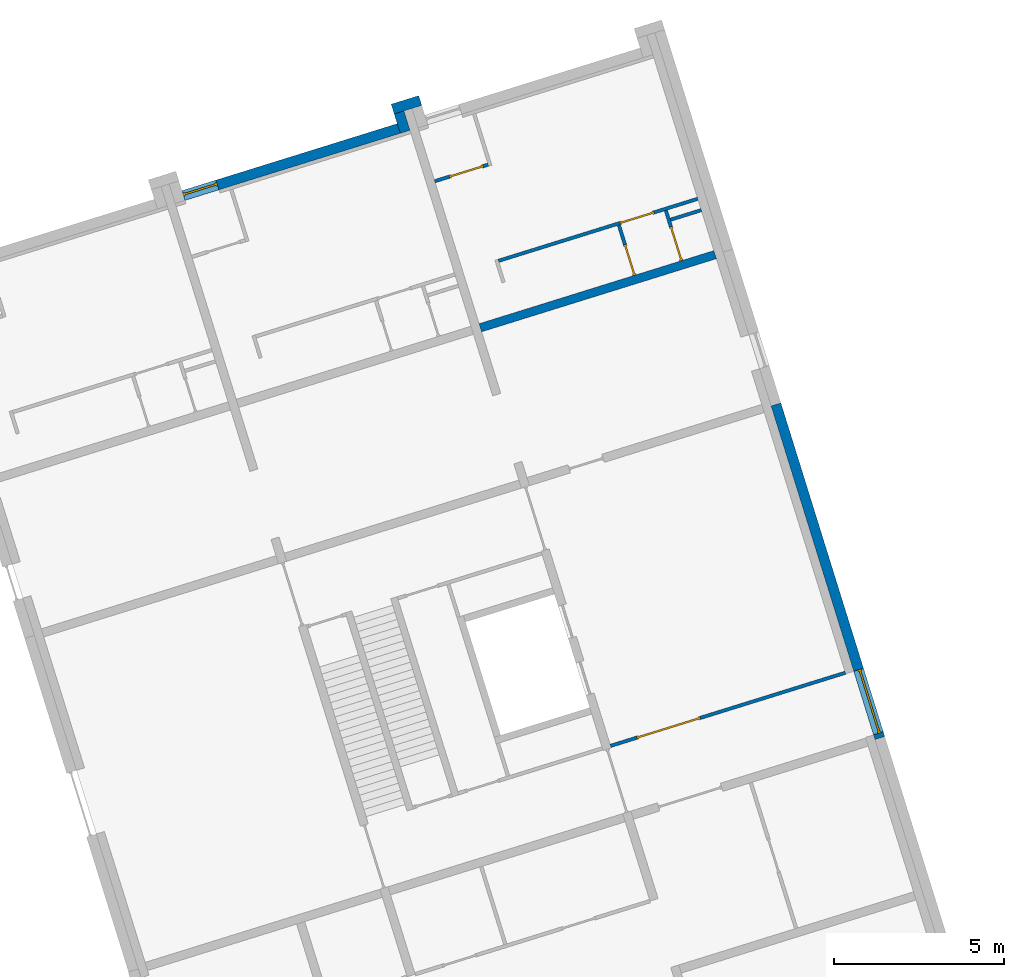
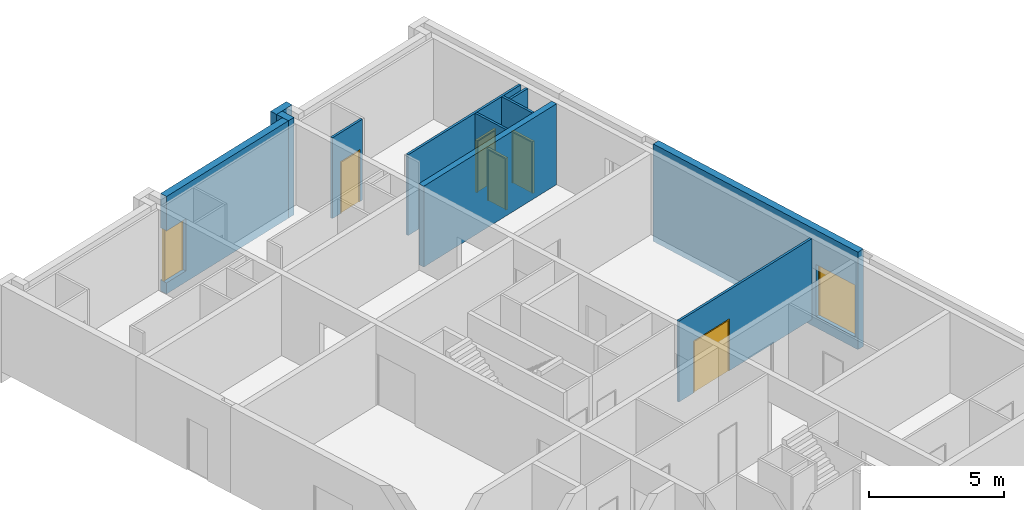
# One storey, part 5 of 10: 11 walls, 7 doors, 9 openings.
"""IFC4 building model written with IfcOpenShell, lengths in metres."""

from ifc_helpers import new_model, entity, si_unit, converted_unit, direction, frame, origin, place, context, subcontext, project, spatial, indexed_curve, outline, extrude, polygons, source, transform, mapped, material, constituent, constituent_set, type_object, type_shapes, element, fill, save


model = new_model("IFC4")

# Units and contexts
model_context = context("Model", 3, precision=1e-05, world=origin(), true_north=direction((6.12323399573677e-17, 1.0)))
body_context = subcontext(model_context, "Body", "Model", "MODEL_VIEW")
ifc_project = project(units=[si_unit("LENGTHUNIT", "METRE"), si_unit("AREAUNIT", "SQUARE_METRE"), converted_unit("PLANEANGLEUNIT", "DEGREE", entity("IfcPlaneAngleMeasure", 0.0174532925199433), si_unit("PLANEANGLEUNIT", "RADIAN"), dimensions=[0, 0, 0, 0, 0, 0, 0]), si_unit("VOLUMEUNIT", "CUBIC_METRE")], contexts=[model_context])

# Site, building, storey
site_placement = place(None, frame((13.1347999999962, 11.9886000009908, 0.0), z_axis=(0.0, 0.0, 1.0), x_axis=(0.954770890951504, 0.297342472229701, 0.0)))
site = spatial("IfcSite", under=ifc_project, at=site_placement, Name="Schiehaven", CompositionType="ELEMENT")
building_placement = place(site_placement, origin())
building = spatial("IfcBuilding", under=site, at=building_placement, Name="VORM huis", CompositionType="ELEMENT")
storey_placement = place(building_placement, origin())
storey = spatial("IfcBuildingStorey", under=building, at=storey_placement, Name="00 begane grond", CompositionType="ELEMENT", Elevation=0.0)

# Wall, openings, door
ifc_material_1 = material(Name="ntb_ntb_ntb", Category="Miscellaneous")
wall_type_1 = type_object("IfcWallType", Name="Basic Wall: 300mm_gen", PredefinedType="STANDARD")
wall_1_placement = place(storey_placement, frame((80.2750000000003, 11.9, -0.5), z_axis=(0.0, 0.0, 1.0), x_axis=(0.0, 1.0, 0.0)))
wall_1 = element("IfcWall", 1, at=wall_1_placement, inside=storey, type_object=wall_type_1, material=ifc_material_1, Name="Gevelwand", ObjectType="Wand", PredefinedType="NOTDEFINED", context=body_context, shape_type="Tessellation", body=[
    polygons([(0.0, -0.150000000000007, 0.0), (10.3, -0.150000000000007, 0.0), (10.3, -0.150000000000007, 4.4), (0.0, -0.150000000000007, 4.4), (2.1075, -0.150000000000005, 2.84999999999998), (2.1075, -0.150000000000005, 0.5), (0.142499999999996, -0.15000000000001, 0.5), (0.142499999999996, -0.15000000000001, 2.84999999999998), (0.0, 0.149999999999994, 0.0), (0.0, 0.149999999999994, 4.4), (10.3, 0.149999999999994, 4.4), (10.3, 0.149999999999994, 0.0), (2.1075, 0.149999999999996, 2.84999999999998), (0.142499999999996, 0.149999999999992, 2.84999999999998), (0.142499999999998, 0.149999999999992, 0.5), (2.1075, 0.149999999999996, 0.5)], [[[1, 2, 3, 4], [5, 6, 7, 8]], [[9, 10, 11, 12], [13, 14, 15, 16]], [[2, 1, 9, 12]], [[3, 2, 12, 11]], [[4, 3, 11, 10]], [[1, 4, 10, 9]], [[5, 8, 14, 13]], [[8, 7, 15, 14]], [[7, 6, 16, 15]], [[6, 5, 13, 16]]], closed=True),
])
opening_1_placement = place(wall_1_placement, frame((2.1075, 0.150000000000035, 0.5)))
opening_1 = element("IfcOpeningElement", 2, at=opening_1_placement, cuts=wall_1, Name="Vluchtdeur", PredefinedType="OPENING", context=body_context, shape_type="SweptSolid", body=[
    extrude(outline(indexed_curve([(2.34999999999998, 0.0), (2.34999999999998, 1.965), (0.0, 1.965), (0.0, 0.0), (2.34999999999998, 0.0)], self_intersect=False)), frame((0.0, 0.0, 0.0), z_axis=(0.0, -1.0, 0.0), x_axis=(0.0, 0.0, 1.0)), (0.0, 0.0, 1.0), 0.3),
])
opening_2_placement = place(wall_1_placement, frame((-11.9, 80.2750000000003, 0.5), z_axis=(0.0, 0.0, 1.0), x_axis=(0.0, -1.0, 0.0)))
element("IfcOpeningElement", 3, at=opening_2_placement, cuts=wall_1, Name="Vluchtdeur", PredefinedType="OPENING", context=body_context, shape_type="SweptSolid", body=[
    extrude(outline(indexed_curve([(-1.17499999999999, -0.9825), (1.17499999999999, -0.982500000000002), (1.17499999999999, 0.982500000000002), (-1.17499999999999, 0.982500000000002), (-1.17499999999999, -0.9825)], self_intersect=False)), frame((81.6490000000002, 13.025, 1.17499999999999), z_axis=(-1.0, 0.0, 0.0), x_axis=(0.0, 0.0, -1.0)), (0.0, 0.0, 1.0), 3.048),
])
ifc_material_2 = material(Name="PD_a_buitenwandopeningen", Category="Miscellaneous")
ifc_constituent_1 = constituent(ifc_material_2, Name="PD_a_buitenwandopeningen", Category="Miscellaneous")
ifc_material_3 = material(Name="metaal_aluminium_ntb", Category="Miscellaneous")
ifc_constituent_2 = constituent(ifc_material_3, Name="metaal_aluminium_ntb", Category="Miscellaneous")
ifc_constituent_set_1 = constituent_set(constituents=[ifc_constituent_1, ifc_constituent_2])
ifc_constituent_3 = constituent(ifc_material_2, Name="PD_a_buitenwandopeningen", Category="Miscellaneous")
ifc_constituent_4 = constituent(ifc_material_3, Name="Panel", Category="Miscellaneous")
ifc_constituent_set_2 = constituent_set(constituents=[ifc_constituent_3, ifc_constituent_4])
door_type_1 = type_object("IfcDoorType", Name="31_DO_buitendeur dubbel:buitendeur zelfsluitend 30min", OperationType="NOTDEFINED", PredefinedType="DOOR", material=ifc_constituent_set_2)
shared_shape_1 = source(origin(), body_context, "Body", "SweptSolid", [
    extrude(outline(indexed_curve([(0.932499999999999, -1.16249999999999), (0.982500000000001, -1.16249999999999), (0.982500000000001, 1.18749999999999), (-0.982500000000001, 1.18749999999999), (-0.982500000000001, -1.16249999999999), (-0.932499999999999, -1.16249999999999), (-0.9325, 1.13749999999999), (0.932499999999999, 1.13749999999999), (0.932499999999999, -1.16249999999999)], self_intersect=False)), frame((0.982500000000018, 0.230000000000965, 1.16249999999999), z_axis=(0.0, -1.0, 0.0), x_axis=(1.0, 0.0, 0.0)), (0.0, 0.0, 1.0), 0.1),
    extrude(outline(indexed_curve([(-0.466249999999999, -0.025), (0.466249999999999, -0.025), (0.466249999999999, 0.025), (-0.466249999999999, 0.025), (-0.466249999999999, -0.025)], self_intersect=False)), frame((0.516250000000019, 0.180000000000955, 0.0)), (0.0, 0.0, 1.0), 2.29999999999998),
    extrude(outline(indexed_curve([(-0.46625, -0.025), (0.46625, -0.025), (0.46625, 0.025), (-0.46625, 0.025), (-0.46625, -0.025)], self_intersect=False)), frame((1.44875000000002, 0.180000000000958, 0.0)), (0.0, 0.0, 1.0), 2.29999999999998),
])
type_shapes(door_type_1, [shared_shape_1])
door_1_placement = place(opening_1_placement, frame((0.0, 0.0, 0.0), z_axis=(0.0, 0.0, 1.0), x_axis=(-1.0, 0.0, 0.0)))
door_1 = element("IfcDoor", 4, at=door_1_placement, inside=storey, type_object=door_type_1, material=ifc_constituent_set_1, Name="Vluchtdeur", ObjectType="Deur", OperationType="NOTDEFINED", OverallHeight=2.34999999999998, OverallWidth=1.965, PredefinedType="DOOR", context=body_context, shape_type="MappedRepresentation", body=[
    mapped(shared_shape_1, transform((0.0, 0.0, 0.0), scale=1.0)),
])
fill(opening_1, door_1)

# Wall
wall_2_placement = place(storey_placement, frame((72.2250000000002, 33.7249999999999, -0.5), z_axis=(0.0, 0.0, 1.0), x_axis=(0.0, -1.0, 0.0)))
element("IfcWall", 5, at=wall_2_placement, inside=storey, type_object=wall_type_1, material=ifc_material_1, Name="Gevelwand", ObjectType="Wand", PredefinedType="NOTDEFINED", context=body_context, shape_type="SweptSolid", body=[
    extrude(outline(indexed_curve([(0.600000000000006, 0.150000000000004), (-9.66298299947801e-16, 0.150000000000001), (9.66298299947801e-16, -0.150000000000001), (0.600000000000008, -0.149999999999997), (0.600000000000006, 0.150000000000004)], self_intersect=False)), origin(), (0.0, 0.0, 1.0), 4.4),
])

# Wall, opening, door
wall_3_placement = place(storey_placement, frame((72.0750000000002, 33.2749999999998, -0.5), z_axis=(0.0, 0.0, 1.0), x_axis=(-1.0, 0.0, 0.0)))
wall_3 = element("IfcWall", 6, at=wall_3_placement, inside=storey, type_object=wall_type_1, material=ifc_material_1, Name="Gevelwand", ObjectType="Wand", PredefinedType="NOTDEFINED", context=body_context, shape_type="Tessellation", body=[
    polygons([(5.27465413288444e-15, -0.150000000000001, 0.0), (6.64999999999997, -0.150000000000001, 0.0), (6.64999999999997, -0.150000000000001, 0.5), (5.60000000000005, -0.150000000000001, 0.5), (5.60000000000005, -0.150000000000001, 2.84999999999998), (6.64999999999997, -0.150000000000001, 2.84999999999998), (6.64999999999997, -0.150000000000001, 4.4), (5.27465413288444e-15, -0.150000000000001, 4.4), (6.64999999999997, 0.150000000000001, 0.0), (4.29428107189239e-15, 0.150000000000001, 0.0), (4.29428107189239e-15, 0.150000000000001, 4.4), (6.64999999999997, 0.150000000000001, 4.4), (6.64999999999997, 0.150000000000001, 2.84999999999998), (5.60000000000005, 0.150000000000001, 2.84999999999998), (5.60000000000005, 0.150000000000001, 0.5), (6.64999999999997, 0.150000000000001, 0.5)], [[[1, 2, 3, 4, 5, 6, 7, 8]], [[9, 10, 11, 12, 13, 14, 15, 16]], [[2, 1, 10, 9]], [[8, 7, 12, 11]], [[1, 8, 11, 10]], [[2, 9, 16, 3]], [[15, 4, 3, 16]], [[4, 15, 14, 5]], [[5, 14, 13, 6]], [[12, 7, 6, 13]]], closed=True),
])
opening_3_placement = place(wall_3_placement, frame((6.65000000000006, 0.149999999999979, 0.5)))
opening_3 = element("IfcOpeningElement", 7, at=opening_3_placement, cuts=wall_3, Name="Woningtoegangsdeur", PredefinedType="OPENING", context=body_context, shape_type="SweptSolid", body=[
    extrude(outline(indexed_curve([(2.34999999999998, -5.52923834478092e-32), (2.34999999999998, 1.05), (0.0, 1.05), (0.0, -5.52923834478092e-32), (2.34999999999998, -5.52923834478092e-32)], self_intersect=False)), frame((0.0, 0.0, 0.0), z_axis=(0.0, -1.0, 0.0), x_axis=(0.0, 0.0, 1.0)), (0.0, 0.0, 1.0), 0.3),
])
ifc_constituent_5 = constituent(ifc_material_2, Name="PD_a_buitenwandopeningen", Category="Miscellaneous")
ifc_constituent_6 = constituent(ifc_material_3, Name="metaal_aluminium_ntb", Category="Miscellaneous")
ifc_constituent_set_3 = constituent_set(constituents=[ifc_constituent_5, ifc_constituent_6])
ifc_constituent_7 = constituent(ifc_material_2, Name="PD_a_buitenwandopeningen", Category="Miscellaneous")
ifc_constituent_8 = constituent(ifc_material_3, Name="Panel", Category="Miscellaneous")
ifc_constituent_set_4 = constituent_set(constituents=[ifc_constituent_7, ifc_constituent_8])
door_type_2 = type_object("IfcDoorType", Name="31_DO_buitendeur enkel:woningtoegangsdeur", OperationType="REVOLVING", PredefinedType="DOOR", material=ifc_constituent_set_4)
shared_shape_2 = source(origin(), body_context, "Body", "SweptSolid", [
    extrude(outline(indexed_curve([(0.475, -1.16249999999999), (0.525000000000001, -1.16249999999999), (0.525000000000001, 1.18749999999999), (-0.525000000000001, 1.18749999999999), (-0.525000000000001, -1.16249999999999), (-0.475, -1.16249999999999), (-0.475, 1.13749999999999), (0.475, 1.13749999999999), (0.475, -1.16249999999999)], self_intersect=False)), frame((0.525000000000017, 0.230000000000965, 1.16249999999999), z_axis=(0.0, -1.0, 0.0), x_axis=(1.0, 0.0, 0.0)), (0.0, 0.0, 1.0), 0.1),
    extrude(outline(indexed_curve([(-0.475, -0.025), (0.475, -0.025), (0.475, 0.025), (-0.475, 0.025), (-0.475, -0.025)], self_intersect=False)), frame((0.525000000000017, 0.180000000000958, 0.0)), (0.0, 0.0, 1.0), 2.29999999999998),
])
type_shapes(door_type_2, [shared_shape_2])
door_2_placement = place(opening_3_placement, frame((0.0, 0.0, 0.0), z_axis=(0.0, 0.0, 1.0), x_axis=(-1.0, 0.0, 0.0)))
door_2 = element("IfcDoor", 8, at=door_2_placement, inside=storey, type_object=door_type_2, material=ifc_constituent_set_3, Name="Woningtoegangsdeur", ObjectType="Deur", OperationType="REVOLVING", OverallHeight=2.34999999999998, OverallWidth=1.05, PredefinedType="DOOR", context=body_context, shape_type="MappedRepresentation", body=[
    mapped(shared_shape_2, transform((0.0, 0.0, 0.0), scale=1.0)),
])
fill(opening_3, door_2)

# Walls
wall_4_placement = place(storey_placement, frame((72.9250000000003, 33.8749999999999, -0.5), z_axis=(0.0, 0.0, 1.0), x_axis=(-1.0, 0.0, 0.0)))
element("IfcWall", 9, at=wall_4_placement, inside=storey, type_object=wall_type_1, material=ifc_material_1, Name="Gevelwand", ObjectType="Wand", PredefinedType="NOTDEFINED", context=body_context, shape_type="SweptSolid", body=[
    extrude(outline(indexed_curve([(0.850000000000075, 0.150000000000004), (-6.58211410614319e-16, 0.150000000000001), (6.58211410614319e-16, -0.150000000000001), (0.850000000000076, -0.149999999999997), (0.850000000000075, 0.150000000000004)], self_intersect=False)), origin(), (0.0, 0.0, 1.0), 4.4),
])
wall_type_2 = type_object("IfcWallType", Name="Basic Wall:22_WA_afbouw_binnenwand 250mm_gen", PredefinedType="STANDARD")
wall_5_placement = place(storey_placement, frame((79.875, 26.95, 0.0), z_axis=(0.0, 0.0, 1.0), x_axis=(-1.0, 0.0, 0.0)))
element("IfcWall", 10, at=wall_5_placement, inside=storey, type_object=wall_type_2, material=ifc_material_1, Name="Binnenwand", ObjectType="Wand", PredefinedType="NOTDEFINED", context=body_context, shape_type="SweptSolid", body=[
    extrude(outline(indexed_curve([(7.24999999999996, 0.125000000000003), (2.22995564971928e-15, 0.125000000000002), (-2.22995564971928e-15, -0.125000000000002), (7.24999999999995, -0.125000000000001), (7.24999999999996, 0.125000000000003)], self_intersect=False)), origin(), (0.0, 0.0, 1.0), 3.65),
])

# Wall, opening, door
wall_type_3 = type_object("IfcWallType", Name="Basic Wall:22_WA_afbouw_binnenwand 100mm_gen", PredefinedType="STANDARD")
wall_6_placement = place(storey_placement, frame((72.6250000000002, 14.04, 0.0)))
wall_6 = element("IfcWall", 11, at=wall_6_placement, inside=storey, type_object=wall_type_3, material=ifc_material_1, Name="Binnenwand", ObjectType="Wand", PredefinedType="NOTDEFINED", context=body_context, shape_type="Tessellation", body=[
    polygons([(2.76249999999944, -0.0499999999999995, 2.34999999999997), (2.76249999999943, -0.0499999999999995, 0.0), (7.24999999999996, -0.0499999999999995, 0.0), (7.24999999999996, -0.0499999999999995, 3.65), (2.59608411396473e-15, -0.0499999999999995, 3.65), (2.59608411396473e-15, -0.0499999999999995, 0.0), (0.812499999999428, -0.0499999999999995, 0.0), (0.812499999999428, -0.0499999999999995, 2.34999999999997), (7.24999999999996, 0.0499999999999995, 0.0), (2.76249999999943, 0.0499999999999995, 0.0), (2.76249999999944, 0.0499999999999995, 2.34999999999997), (0.81249999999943, 0.0500000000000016, 2.34999999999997), (0.81249999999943, 0.0500000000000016, 0.0), (4.03885492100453e-15, 0.0499999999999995, 0.0), (4.03885492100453e-15, 0.0499999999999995, 3.65), (7.24999999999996, 0.0499999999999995, 3.65)], [[[1, 2, 3, 4, 5, 6, 7, 8]], [[9, 10, 11, 12, 13, 14, 15, 16]], [[7, 6, 14, 13]], [[4, 3, 9, 16]], [[5, 4, 16, 15]], [[6, 5, 15, 14]], [[13, 12, 8, 7]], [[11, 10, 2, 1]], [[12, 11, 1, 8]], [[3, 2, 10, 9]]], closed=True),
])
opening_4_placement = place(wall_6_placement, frame((2.76249999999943, 0.0500000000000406, 0.0)))
opening_4 = element("IfcOpeningElement", 12, at=opening_4_placement, cuts=wall_6, Name="Vluchtdeur", PredefinedType="OPENING", context=body_context, shape_type="SweptSolid", body=[
    extrude(outline(indexed_curve([(2.34999999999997, 1.95), (0.0, 1.95000000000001), (0.0, 3.10024677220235e-29), (2.34999999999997, 3.10024677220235e-29), (2.34999999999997, 1.95)], self_intersect=False)), frame((0.0, 0.0, 0.0), z_axis=(0.0, -1.0, 0.0), x_axis=(0.0, 0.0, 1.0)), (0.0, 0.0, 1.0), 0.1),
])
ifc_material_4 = material(Name="PD_a_binnenwandopeningen", Category="Miscellaneous")
ifc_constituent_9 = constituent(ifc_material_4, Name="PD_a_binnenwandopeningen", Category="Miscellaneous")
ifc_constituent_10 = constituent(ifc_material_3, Name="metaal_aluminium_ntb", Category="Miscellaneous")
ifc_constituent_set_5 = constituent_set(constituents=[ifc_constituent_9, ifc_constituent_10])
ifc_constituent_11 = constituent(ifc_material_4, Name="PD_a_binnenwandopeningen", Category="Miscellaneous")
ifc_constituent_12 = constituent(ifc_material_3, Name="Panel", Category="Miscellaneous")
ifc_constituent_set_6 = constituent_set(constituents=[ifc_constituent_11, ifc_constituent_12])
door_type_3 = type_object("IfcDoorType", Name="32_DO_binnendeur dubbel:binnendeur zelfsluitend 30min", OperationType="NOTDEFINED", PredefinedType="DOOR", material=ifc_constituent_set_6)
shared_shape_3 = source(origin(), body_context, "Body", "SweptSolid", [
    extrude(outline(indexed_curve([(-1.16249999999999, -0.975), (1.18749999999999, -0.975), (1.18749999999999, 0.975), (-1.16249999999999, 0.975), (-1.16249999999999, 0.925), (1.13749999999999, 0.925), (1.13749999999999, -0.925), (-1.16249999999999, -0.925), (-1.16249999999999, -0.975)], self_intersect=False)), frame((0.975, 0.0, 1.16249999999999), z_axis=(0.0, 1.0, 0.0), x_axis=(0.0, 0.0, 1.0)), (0.0, 0.0, 1.0), 0.1),
    extrude(outline(indexed_curve([(-0.025, -0.462499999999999), (0.025, -0.462499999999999), (0.025, 0.462499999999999), (-0.025, 0.462499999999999), (-0.025, -0.462499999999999)], self_intersect=False)), frame((1.4375, 0.0499999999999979, 0.0), z_axis=(0.0, 0.0, 1.0), x_axis=(0.0, 1.0, 0.0)), (0.0, 0.0, 1.0), 2.29999999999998),
    extrude(outline(indexed_curve([(-0.0249999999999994, -0.4625), (0.0250000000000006, -0.4625), (0.0249999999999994, 0.4625), (-0.0250000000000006, 0.4625), (-0.0249999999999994, -0.4625)], self_intersect=False)), frame((0.5125, 0.050000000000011, 0.0), z_axis=(0.0, 0.0, 1.0), x_axis=(0.0, 1.0, 0.0)), (0.0, 0.0, 1.0), 2.29999999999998),
])
type_shapes(door_type_3, [shared_shape_3])
door_3_placement = place(opening_4_placement, frame((0.0, 0.0, 0.0), z_axis=(0.0, 0.0, 1.0), x_axis=(-1.0, 0.0, 0.0)))
door_3 = element("IfcDoor", 13, at=door_3_placement, inside=storey, type_object=door_type_3, material=ifc_constituent_set_5, Name="Vluchtdeur", ObjectType="Deur", OperationType="NOTDEFINED", OverallHeight=2.34999999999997, OverallWidth=1.95000000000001, PredefinedType="DOOR", context=body_context, shape_type="MappedRepresentation", body=[
    mapped(shared_shape_3, transform((0.0, 0.0, 0.0), scale=1.0)),
])
fill(opening_4, door_3)

wall_7_placement = place(storey_placement, frame((77.4250000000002, 28.6249999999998, 0.0), z_axis=(0.0, 0.0, 1.0), x_axis=(0.0, -1.0, 0.0)))
wall_7 = element("IfcWall", 14, at=wall_7_placement, inside=storey, type_object=wall_type_3, material=ifc_material_1, Name="Binnenwand", ObjectType="Wand", PredefinedType="NOTDEFINED", context=body_context, shape_type="Tessellation", body=[
    polygons([(1.54999999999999, -0.0500000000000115, 3.65), (-4.33146851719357e-15, -0.0500000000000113, 3.65), (-4.33146851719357e-15, -0.0500000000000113, 0.0), (0.599999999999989, -0.0500000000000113, 0.0), (0.599999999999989, -0.0500000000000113, 2.34999999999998), (1.54999999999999, -0.0500000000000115, 2.34999999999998), (-4.33146851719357e-15, 0.0500000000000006, 3.65), (1.54999999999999, 0.0500000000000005, 3.65), (1.54999999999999, 0.0500000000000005, 2.34999999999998), (0.599999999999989, 0.0500000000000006, 2.34999999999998), (0.599999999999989, 0.0500000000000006, 0.0), (-4.33146851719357e-15, 0.0500000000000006, 0.0), (0.0, 0.0500000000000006, 2.34999999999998)], [[[1, 2, 3, 4, 5, 6]], [[7, 8, 9, 10, 11, 12, 13]], [[3, 12, 11, 4]], [[8, 1, 6, 9]], [[2, 1, 8, 7]], [[10, 5, 4, 11]], [[5, 10, 9, 6]], [[3, 2, 7, 13, 12]]], closed=True),
])
opening_5_placement = place(wall_7_placement, frame((0.599999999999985, -0.0499999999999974, 0.0)))
opening_5 = element("IfcOpeningElement", 15, at=opening_5_placement, cuts=wall_7, Name="Binnendeur", PredefinedType="OPENING", context=body_context, shape_type="SweptSolid", body=[
    extrude(outline(indexed_curve([(2.34999999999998, 0.950000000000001), (0.0, 0.950000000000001), (0.0, 2.70716782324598e-16), (2.34999999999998, 2.70716782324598e-16), (2.34999999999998, 0.950000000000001)], self_intersect=False)), frame((0.0, 0.0, 0.0), z_axis=(0.0, 1.0, 0.0), x_axis=(0.0, 0.0, 1.0)), (0.0, 0.0, 1.0), 0.1),
])
ifc_constituent_13 = constituent(ifc_material_4, Name="PD_a_binnenwandopeningen", Category="Miscellaneous")
ifc_constituent_14 = constituent(ifc_material_3, Name="metaal_aluminium_ntb", Category="Miscellaneous")
ifc_constituent_set_7 = constituent_set(constituents=[ifc_constituent_13, ifc_constituent_14])
ifc_constituent_15 = constituent(ifc_material_4, Name="PD_a_binnenwandopeningen", Category="Miscellaneous")
ifc_constituent_16 = constituent(ifc_material_3, Name="Panel", Category="Miscellaneous")
ifc_constituent_set_8 = constituent_set(constituents=[ifc_constituent_15, ifc_constituent_16])
door_type_4 = type_object("IfcDoorType", Name="32_DO_binnendeur enkel:kastdeur", OperationType="REVOLVING", PredefinedType="DOOR", material=ifc_constituent_set_8)
shared_shape_4 = source(origin(), body_context, "Body", "SweptSolid", [
    extrude(outline(indexed_curve([(-1.16249999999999, -0.475000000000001), (1.18749999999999, -0.475000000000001), (1.18749999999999, 0.475000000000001), (-1.16249999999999, 0.475000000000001), (-1.16249999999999, 0.425), (1.13749999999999, 0.425), (1.13749999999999, -0.425), (-1.16249999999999, -0.425), (-1.16249999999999, -0.475000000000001)], self_intersect=False)), frame((0.475000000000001, 0.0, 1.16249999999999), z_axis=(0.0, 1.0, 0.0), x_axis=(0.0, 0.0, 1.0)), (0.0, 0.0, 1.0), 0.1),
    extrude(outline(indexed_curve([(-0.0250000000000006, -0.425), (0.0249999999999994, -0.425), (0.0250000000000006, 0.425), (-0.0249999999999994, 0.425), (-0.0250000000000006, -0.425)], self_intersect=False)), frame((0.475000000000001, 0.0499999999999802, 0.0), z_axis=(0.0, 0.0, 1.0), x_axis=(0.0, 1.0, 0.0)), (0.0, 0.0, 1.0), 2.29999999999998),
])
type_shapes(door_type_4, [shared_shape_4])
door_4_placement = place(opening_5_placement, origin())
door_4 = element("IfcDoor", 16, at=door_4_placement, inside=storey, type_object=door_type_4, material=ifc_constituent_set_7, Name="Binnendeur", ObjectType="Deur", OperationType="REVOLVING", OverallHeight=2.34999999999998, OverallWidth=0.950000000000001, PredefinedType="DOOR", context=body_context, shape_type="MappedRepresentation", body=[
    mapped(shared_shape_4, transform((0.0, 0.0, 0.0), scale=1.0)),
])
fill(opening_5, door_4)

# Wall, openings, door
wall_8_placement = place(storey_placement, frame((73.725, 28.6749999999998, 0.0)))
wall_8 = element("IfcWall", 17, at=wall_8_placement, inside=storey, type_object=wall_type_3, material=ifc_material_1, Name="Binnenwand", ObjectType="Wand", PredefinedType="NOTDEFINED", context=body_context, shape_type="Tessellation", body=[
    polygons([(3.3460741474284e-15, -0.049999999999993, 0.0), (3.65000000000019, -0.0499999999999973, 0.0), (3.75000000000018, -0.049999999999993, 0.0), (3.75000000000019, -0.049999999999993, 2.34999999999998), (4.80000000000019, -0.049999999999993, 2.34999999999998), (4.80000000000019, -0.049999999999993, 0.0), (5.10000000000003, -0.0499999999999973, 0.0), (5.20000000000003, -0.0499999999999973, 0.0), (6.15000000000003, -0.049999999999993, 0.0), (6.15000000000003, -0.049999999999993, 3.65), (5.20000000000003, -0.0499999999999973, 3.65), (5.10000000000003, -0.0499999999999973, 3.65), (3.75000000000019, -0.0499999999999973, 3.65), (3.65000000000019, -0.0499999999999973, 3.65), (3.3460741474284e-15, -0.049999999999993, 3.65), (3.75000000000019, 0.0500000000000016, 2.34999999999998), (3.75000000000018, 0.0500000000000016, 0.0), (3.35776348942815e-15, 0.0500000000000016, 0.0), (3.35776348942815e-15, 0.0500000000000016, 3.65), (6.15000000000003, 0.0500000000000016, 3.65), (6.15000000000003, 0.0500000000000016, 0.0), (4.80000000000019, 0.0500000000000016, 0.0), (4.80000000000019, 0.0500000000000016, 2.34999999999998)], [[[1, 2, 3, 4, 5, 6, 7, 8, 9, 10, 11, 12, 13, 14, 15]], [[16, 17, 18, 19, 20, 21, 22, 23]], [[18, 17, 3, 2, 1]], [[10, 9, 21, 20]], [[15, 14, 13, 12, 11, 10, 20, 19]], [[6, 5, 23, 22]], [[4, 3, 17, 16]], [[5, 4, 16, 23]], [[1, 15, 19, 18]], [[22, 21, 9, 8, 7, 6]]], closed=True),
])
opening_6_placement = place(wall_8_placement, frame((3.75000000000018, -0.0499999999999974, 0.0)))
opening_6 = element("IfcOpeningElement", 18, at=opening_6_placement, cuts=wall_8, Name="Binnendeur", PredefinedType="OPENING", context=body_context, shape_type="SweptSolid", body=[
    extrude(outline(indexed_curve([(2.34999999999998, 1.05000000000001), (0.0, 1.05), (0.0, 5.41433564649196e-15), (2.34999999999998, 5.41433564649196e-15), (2.34999999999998, 1.05000000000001)], self_intersect=False)), frame((0.0, 0.0, 0.0), z_axis=(0.0, 1.0, 0.0), x_axis=(0.0, 0.0, 1.0)), (0.0, 0.0, 1.0), 0.1),
])
opening_7_placement = place(wall_8_placement, frame((-73.725, -28.6749999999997, 0.0)))
element("IfcOpeningElement", 19, at=opening_7_placement, cuts=wall_8, Name="Binnendeur", PredefinedType="OPENING", context=body_context, shape_type="SweptSolid", body=[
    extrude(outline(indexed_curve([(-1.17499999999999, -0.525000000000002), (1.17499999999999, -0.525000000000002), (1.17499999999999, 0.524999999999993), (-1.17499999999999, 0.524999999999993), (-1.17499999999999, -0.525000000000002)], self_intersect=False)), frame((78.0, 27.1009999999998, 1.17499999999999), z_axis=(0.0, 1.0, 0.0), x_axis=(0.0, 0.0, -1.0)), (0.0, 0.0, 1.0), 3.048),
])
ifc_constituent_17 = constituent(ifc_material_4, Name="PD_a_binnenwandopeningen", Category="Miscellaneous")
ifc_constituent_18 = constituent(ifc_material_3, Name="metaal_aluminium_ntb", Category="Miscellaneous")
ifc_constituent_set_9 = constituent_set(constituents=[ifc_constituent_17, ifc_constituent_18])
ifc_constituent_19 = constituent(ifc_material_4, Name="PD_a_binnenwandopeningen", Category="Miscellaneous")
ifc_constituent_20 = constituent(ifc_material_3, Name="Panel", Category="Miscellaneous")
ifc_constituent_set_10 = constituent_set(constituents=[ifc_constituent_19, ifc_constituent_20])
door_type_5 = type_object("IfcDoorType", Name="32_DO_binnendeur enkel:binnendeur", OperationType="REVOLVING", PredefinedType="DOOR", material=ifc_constituent_set_10)
shared_shape_5 = source(origin(), body_context, "Body", "SweptSolid", [
    extrude(outline(indexed_curve([(-1.16249999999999, -0.525000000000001), (1.18749999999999, -0.525), (1.18749999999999, 0.525), (-1.16249999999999, 0.525), (-1.16249999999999, 0.475), (1.13749999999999, 0.475), (1.13749999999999, -0.475), (-1.16249999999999, -0.475), (-1.16249999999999, -0.525000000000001)], self_intersect=False)), frame((0.525000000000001, 0.0, 1.16249999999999), z_axis=(0.0, 1.0, 0.0), x_axis=(0.0, 0.0, 1.0)), (0.0, 0.0, 1.0), 0.1),
    extrude(outline(indexed_curve([(-0.025, -0.475), (0.025, -0.475), (0.025, 0.475), (-0.025, 0.475), (-0.025, -0.475)], self_intersect=False)), frame((0.525000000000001, 0.0499999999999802, 0.0), z_axis=(0.0, 0.0, 1.0), x_axis=(0.0, 1.0, 0.0)), (0.0, 0.0, 1.0), 2.29999999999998),
])
type_shapes(door_type_5, [shared_shape_5])
door_5_placement = place(opening_6_placement, origin())
door_5 = element("IfcDoor", 20, at=door_5_placement, inside=storey, type_object=door_type_5, material=ifc_constituent_set_9, Name="Binnendeur", ObjectType="Deur", OperationType="REVOLVING", OverallHeight=2.34999999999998, OverallWidth=1.05, PredefinedType="DOOR", context=body_context, shape_type="MappedRepresentation", body=[
    mapped(shared_shape_5, transform((0.0, 0.0, 0.0), scale=1.0)),
])
fill(opening_6, door_5)

# Wall
wall_9_placement = place(storey_placement, frame((79.875, 28.3249999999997, 0.0), z_axis=(0.0, 0.0, 1.0), x_axis=(-1.0, 0.0, 0.0)))
element("IfcWall", 21, at=wall_9_placement, inside=storey, type_object=wall_type_3, material=ifc_material_1, Name="Binnenwand", ObjectType="Wand", PredefinedType="NOTDEFINED", context=body_context, shape_type="SweptSolid", body=[
    extrude(outline(indexed_curve([(0.950000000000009, 0.0500000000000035), (-9.68509587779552e-17, 0.0500000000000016), (9.68509587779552e-17, -0.0500000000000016), (0.950000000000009, -0.0499999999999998), (0.950000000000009, 0.0500000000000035)], self_intersect=False)), origin(), (0.0, 0.0, 1.0), 3.65),
])

# Wall, opening, door
wall_10_placement = place(storey_placement, frame((78.875, 27.0749999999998, 0.0), z_axis=(0.0, 0.0, 1.0), x_axis=(0.0, 1.0, 0.0)))
wall_10 = element("IfcWall", 22, at=wall_10_placement, inside=storey, type_object=wall_type_3, material=ifc_material_1, Name="Binnenwand", ObjectType="Wand", PredefinedType="NOTDEFINED", context=body_context, shape_type="Tessellation", body=[
    polygons([(1.55, -0.049999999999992, 3.65), (1.29999999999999, -0.0499999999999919, 3.65), (1.19999999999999, -0.0499999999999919, 3.65), (0.0, -0.0499999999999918, 3.65), (0.0, -0.0499999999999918, 2.34999999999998), (1.05, -0.0499999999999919, 2.34999999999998), (1.05, -0.0499999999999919, 0.0), (1.19999999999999, -0.0499999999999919, 0.0), (1.29999999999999, -0.0499999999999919, 0.0), (1.55, -0.049999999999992, 0.0), (0.0, 0.0500000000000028, 3.65), (1.55, 0.0500000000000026, 3.65), (1.55, 0.0500000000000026, 0.0), (1.05, 0.0500000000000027, 0.0), (1.05, 0.0500000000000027, 2.34999999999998), (0.0, 0.0500000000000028, 2.34999999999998)], [[[1, 2, 3, 4, 5, 6, 7, 8, 9, 10]], [[11, 12, 13, 14, 15, 16]], [[13, 10, 9, 8, 7, 14]], [[4, 3, 2, 1, 12, 11]], [[4, 11, 16, 5]], [[1, 10, 13, 12]], [[6, 15, 14, 7]], [[15, 6, 5, 16]]], closed=True),
])
opening_8_placement = place(wall_10_placement, frame((0.0, -0.0500000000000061, 0.0)))
opening_8 = element("IfcOpeningElement", 23, at=opening_8_placement, cuts=wall_10, Name="Binnendeur", PredefinedType="OPENING", context=body_context, shape_type="SweptSolid", body=[
    extrude(outline(indexed_curve([(2.34999999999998, 1.05), (0.0, 1.05), (0.0, 1.48335986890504e-32), (2.34999999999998, 1.48335986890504e-32), (2.34999999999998, 1.05)], self_intersect=False)), frame((0.0, 0.0, 0.0), z_axis=(0.0, 1.0, 0.0), x_axis=(0.0, 0.0, 1.0)), (0.0, 0.0, 1.0), 0.1),
])
ifc_constituent_21 = constituent(ifc_material_4, Name="PD_a_binnenwandopeningen", Category="Miscellaneous")
ifc_constituent_22 = constituent(ifc_material_3, Name="metaal_aluminium_ntb", Category="Miscellaneous")
ifc_constituent_set_11 = constituent_set(constituents=[ifc_constituent_21, ifc_constituent_22])
door_6_placement = place(opening_8_placement, origin())
door_6 = element("IfcDoor", 24, at=door_6_placement, inside=storey, type_object=door_type_5, material=ifc_constituent_set_11, Name="Binnendeur", ObjectType="Deur", OperationType="REVOLVING", OverallHeight=2.34999999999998, OverallWidth=1.05, PredefinedType="DOOR", context=body_context, shape_type="MappedRepresentation", body=[
    mapped(shared_shape_5, transform((0.0, 0.0, 0.0), scale=1.0)),
])
fill(opening_8, door_6)

wall_11_placement = place(storey_placement, frame((72.6250000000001, 31.4749999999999, 0.0)))
wall_11 = element("IfcWall", 25, at=wall_11_placement, inside=storey, type_object=wall_type_3, material=ifc_material_1, Name="Binnenwand", ObjectType="Wand", PredefinedType="NOTDEFINED", context=body_context, shape_type="Tessellation", body=[
    polygons([(1.49999999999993, -0.0499999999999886, 2.34999999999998), (1.49999999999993, -0.0499999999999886, 0.0), (1.64999999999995, -0.0499999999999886, 0.0), (1.64999999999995, -0.0499999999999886, 3.65), (-5.74951106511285e-15, -0.0499999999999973, 3.65), (-5.74951106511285e-15, -0.0499999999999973, 0.0), (0.449999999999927, -0.049999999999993, 0.0), (0.449999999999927, -0.049999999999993, 2.34999999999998), (1.64999999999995, 0.050000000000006, 0.0), (1.49999999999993, 0.050000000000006, 0.0), (1.49999999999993, 0.050000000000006, 2.34999999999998), (0.449999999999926, 0.050000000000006, 2.34999999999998), (0.449999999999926, 0.050000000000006, 0.0), (-6.40184857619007e-15, 0.0500000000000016, 0.0), (-6.40184857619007e-15, 0.0500000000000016, 3.65), (1.64999999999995, 0.050000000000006, 3.65)], [[[1, 2, 3, 4, 5, 6, 7, 8]], [[9, 10, 11, 12, 13, 14, 15, 16]], [[7, 6, 14, 13]], [[5, 4, 16, 15]], [[6, 5, 15, 14]], [[4, 3, 9, 16]], [[13, 12, 8, 7]], [[11, 10, 2, 1]], [[12, 11, 1, 8]], [[3, 2, 10, 9]]], closed=True),
])
opening_9_placement = place(wall_11_placement, frame((0.449999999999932, -0.0499999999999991, 0.0)))
opening_9 = element("IfcOpeningElement", 26, at=opening_9_placement, cuts=wall_11, Name="Binnendeur", PredefinedType="OPENING", context=body_context, shape_type="SweptSolid", body=[
    extrude(outline(indexed_curve([(2.34999999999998, -1.18100388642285e-29), (2.34999999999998, 1.05), (0.0, 1.05), (0.0, -1.18100388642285e-29), (2.34999999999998, -1.18100388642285e-29)], self_intersect=False)), frame((0.0, 0.0, 0.0), z_axis=(0.0, 1.0, 0.0), x_axis=(0.0, 0.0, 1.0)), (0.0, 0.0, 1.0), 0.1),
])
ifc_constituent_23 = constituent(ifc_material_4, Name="PD_a_binnenwandopeningen", Category="Miscellaneous")
ifc_constituent_24 = constituent(ifc_material_3, Name="metaal_aluminium_ntb", Category="Miscellaneous")
ifc_constituent_set_12 = constituent_set(constituents=[ifc_constituent_23, ifc_constituent_24])
ifc_constituent_25 = constituent(ifc_material_4, Name="PD_a_binnenwandopeningen", Category="Miscellaneous")
ifc_constituent_26 = constituent(ifc_material_3, Name="Panel", Category="Miscellaneous")
ifc_constituent_set_13 = constituent_set(constituents=[ifc_constituent_25, ifc_constituent_26])
door_type_6 = type_object("IfcDoorType", Name="32_DO_binnendeur enkel:binnendeur", OperationType="REVOLVING", PredefinedType="DOOR", material=ifc_constituent_set_13)
shared_shape_6 = source(origin(), body_context, "Body", "SweptSolid", [
    extrude(outline(indexed_curve([(0.475, -1.16249999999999), (0.525, -1.16249999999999), (0.525, 1.18749999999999), (-0.525, 1.18749999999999), (-0.525, -1.16249999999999), (-0.475, -1.16249999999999), (-0.475, 1.13749999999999), (0.475, 1.13749999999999), (0.475, -1.16249999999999)], self_intersect=False)), frame((0.525000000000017, 0.100000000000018, 1.16249999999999), z_axis=(0.0, -1.0, 0.0), x_axis=(1.0, 0.0, 0.0)), (0.0, 0.0, 1.0), 0.1),
    extrude(outline(indexed_curve([(-0.475, -0.025), (0.475, -0.025), (0.475, 0.025), (-0.475, 0.025), (-0.475, -0.025)], self_intersect=False)), frame((0.525000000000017, 0.0499999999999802, 0.0)), (0.0, 0.0, 1.0), 2.29999999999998),
])
type_shapes(door_type_6, [shared_shape_6])
door_7_placement = place(opening_9_placement, origin())
door_7 = element("IfcDoor", 27, at=door_7_placement, inside=storey, type_object=door_type_6, material=ifc_constituent_set_12, Name="Binnendeur", ObjectType="Deur", OperationType="REVOLVING", OverallHeight=2.34999999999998, OverallWidth=1.05, PredefinedType="DOOR", context=body_context, shape_type="MappedRepresentation", body=[
    mapped(shared_shape_6, transform((0.0, 0.0, 0.0), scale=1.0)),
])
fill(opening_9, door_7)

save(model, "model.ifc")
